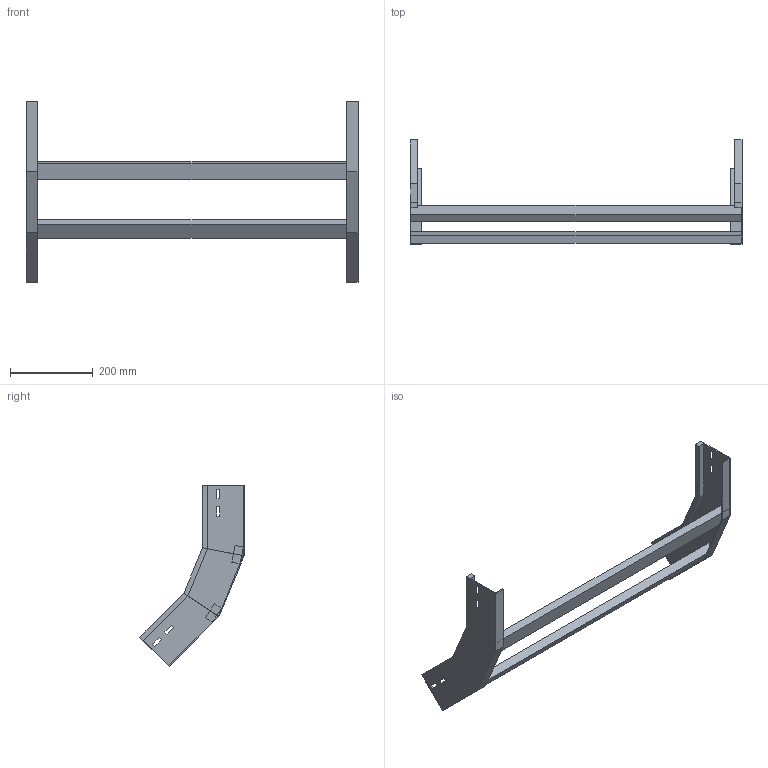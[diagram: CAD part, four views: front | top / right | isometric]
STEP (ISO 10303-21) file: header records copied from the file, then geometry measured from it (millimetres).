
FILE_DESCRIPTION (( 'STEP AP214' ), '1' );
FILE_NAME ('A2X31B3D800XX.step', '2025-03-20T10:04:12', ( '' ), ( '' ), 'SwSTEP 2.0', 'SolidWorks 2023', '' );
FILE_SCHEMA (( 'AUTOMOTIVE_DESIGN' ));
Length unit declared in the file: millimetre
Products named in the file (3): LONGH.SALITA_45°_H100_R300; A2X31B3D800XX; TRAVERSINO_800
Assembly tree (4 placements, depth 2):
  A2X31B3D800XX
    LONGH.SALITA_45°_H100_R300  x2
    TRAVERSINO_800  x2
Bounding box: 800 x 251.29 x 435.96 mm (x, y, z)
Volume: 1682310.5 mm3; surface area: 459691 mm2
Topology: 4 solids, 4 shells, 96 faces, 232 edges, 144 vertices
Faces by surface type: plane 96
Entity records: 1472 total; most frequent: CARTESIAN_POINT 243, ORIENTED_EDGE 232, DIRECTION 226, EDGE_CURVE 116, LINE 116, VECTOR 116, VERTEX_POINT 72, EDGE_LOOP 56
